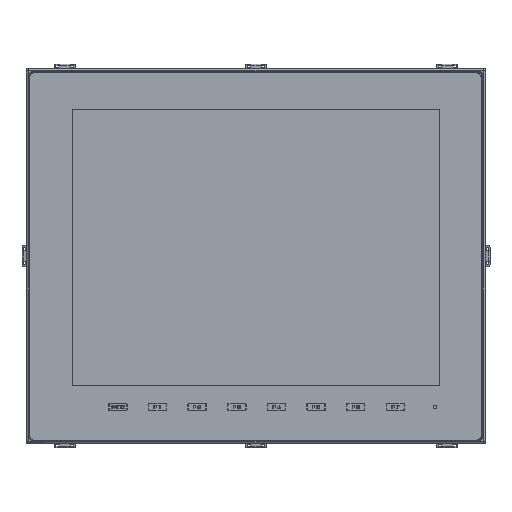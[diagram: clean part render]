
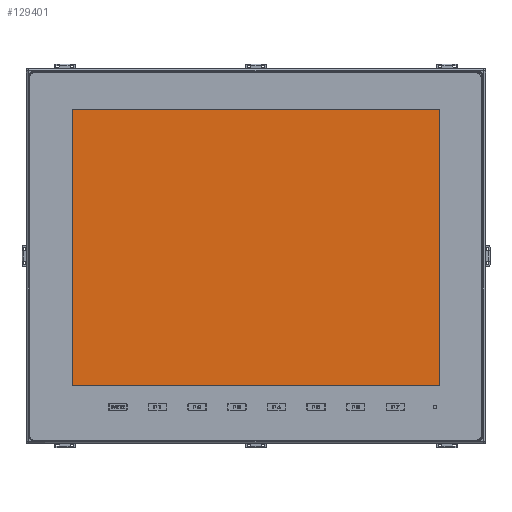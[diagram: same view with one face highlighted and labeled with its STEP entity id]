
A CAD part, top view. The second image highlights one B-rep face of the part: STEP entity #129401.
In plain terms, the highlighted planar face has unit normal (0, 0, 1).
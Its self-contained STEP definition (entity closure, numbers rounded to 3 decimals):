
#46334=DIRECTION('',(0.,-1.,0.));
#46335=VECTOR('',#46334,229.8);
#46336=CARTESIAN_POINT('',(-152.9,121.6,7.538));
#46337=LINE('',#46336,#46335);
#46338=DIRECTION('',(-1.,0.,0.));
#46339=VECTOR('',#46338,305.8);
#46340=CARTESIAN_POINT('',(152.9,121.6,7.538));
#46341=LINE('',#46340,#46339);
#46342=DIRECTION('',(0.,1.,0.));
#46343=VECTOR('',#46342,229.8);
#46344=CARTESIAN_POINT('',(152.9,-108.2,7.538));
#46345=LINE('',#46344,#46343);
#46346=DIRECTION('',(1.,0.,0.));
#46347=VECTOR('',#46346,305.8);
#46348=CARTESIAN_POINT('',(-152.9,-108.2,7.538));
#46349=LINE('',#46348,#46347);
#67546=CARTESIAN_POINT('',(-152.9,121.6,7.538));
#67547=CARTESIAN_POINT('',(-152.9,-108.2,7.538));
#67548=VERTEX_POINT('',#67546);
#67549=VERTEX_POINT('',#67547);
#67550=CARTESIAN_POINT('',(152.9,-108.2,7.538));
#67551=VERTEX_POINT('',#67550);
#67552=CARTESIAN_POINT('',(152.9,121.6,7.538));
#67553=VERTEX_POINT('',#67552);
#129390=CARTESIAN_POINT('',(0.,0.,7.538));
#129391=DIRECTION('',(0.,0.,1.));
#129392=DIRECTION('',(1.,0.,0.));
#129393=AXIS2_PLACEMENT_3D('',#129390,#129391,#129392);
#129394=PLANE('',#129393);
#129395=ORIENTED_EDGE('',*,*,#129342,.F.);
#129396=ORIENTED_EDGE('',*,*,#129357,.F.);
#129397=ORIENTED_EDGE('',*,*,#129371,.F.);
#129398=ORIENTED_EDGE('',*,*,#129384,.F.);
#129399=EDGE_LOOP('',(#129395,#129396,#129397,#129398));
#129400=FACE_OUTER_BOUND('',#129399,.F.);
#129401=ADVANCED_FACE('',(#129400),#129394,.T.);
#129342=EDGE_CURVE('',#67548,#67549,#46337,.T.);
#129357=EDGE_CURVE('',#67553,#67548,#46341,.T.);
#129371=EDGE_CURVE('',#67551,#67553,#46345,.T.);
#129384=EDGE_CURVE('',#67549,#67551,#46349,.T.);
